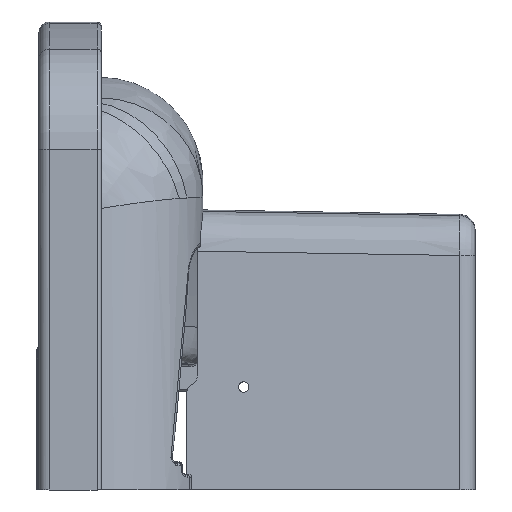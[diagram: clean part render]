
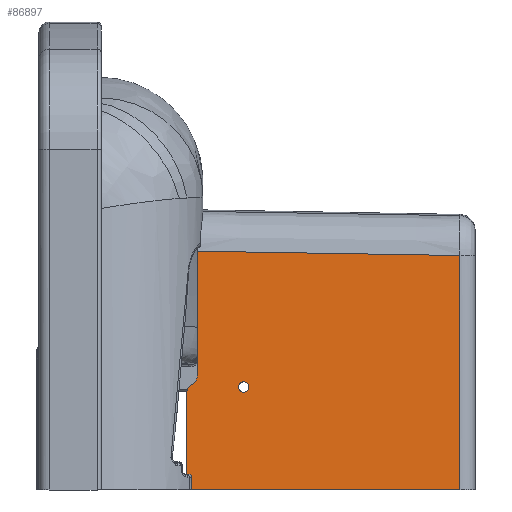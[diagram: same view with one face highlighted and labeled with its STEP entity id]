
A CAD part, left-side view. The second image highlights one B-rep face of the part: STEP entity #86897.
In plain terms, the highlighted planar face has unit normal (-0.999, -0.018, 0.038).
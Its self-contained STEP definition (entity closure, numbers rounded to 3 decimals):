
#903 = EDGE_LOOP ( 'NONE', ( #49031, #67076 ) ) ;
#9324 = EDGE_CURVE ( 'NONE', #20943, #35079, #80012, .T. ) ;
#9415 = CARTESIAN_POINT ( 'NONE',  ( -86.724, -187.349, -127.434 ) ) ;
#10497 = CARTESIAN_POINT ( 'NONE',  ( -77.939, -405.611, 4.344 ) ) ;
#10684 = EDGE_CURVE ( 'NONE', #88509, #39397, #85563, .T. ) ;
#10960 = CARTESIAN_POINT ( 'NONE',  ( -79.284, -325.793, 5.656 ) ) ;
#13706 = CARTESIAN_POINT ( 'NONE',  ( -86.869, -152.469, -115.121 ) ) ;
#14597 = ORIENTED_EDGE ( 'NONE', *, *, #78597, .T. ) ;
#15490 = EDGE_CURVE ( 'NONE', #25874, #45119, #69381, .T. ) ;
#15708 = CARTESIAN_POINT ( 'NONE',  ( -80.881, -152.469, 43.559 ) ) ;
#15893 = CARTESIAN_POINT ( 'NONE',  ( -87.271, -144.203, -121.95 ) ) ;
#16028 = CARTESIAN_POINT ( 'NONE',  ( -86.55, -197.349, -127.434 ) ) ;
#17090 = LINE ( 'NONE', #15708, #60788 ) ;
#17320 = DIRECTION ( 'NONE',  ( -0.999, -0.017, 0.038 ) ) ;
#17972 = CARTESIAN_POINT ( 'NONE',  ( -82.204, -152.469, 8.494 ) ) ;
#18402 = CARTESIAN_POINT ( 'NONE',  ( -87.563, -142.349, -128.824 ) ) ;
#19602 =( BOUNDED_CURVE ( )  B_SPLINE_CURVE ( 3, ( #38787, #15893, #73350, #30388 ),
 .UNSPECIFIED., .F., .F. ) 
 B_SPLINE_CURVE_WITH_KNOTS ( ( 4, 4 ),
 ( 4.092, 5.146 ),
 .UNSPECIFIED. ) 
 CURVE ( )  GEOMETRIC_REPRESENTATION_ITEM ( )  RATIONAL_B_SPLINE_CURVE ( ( 1., 0.91, 0.91, 1. ) ) 
 REPRESENTATION_ITEM ( '' )  );
#20943 = VERTEX_POINT ( 'NONE', #46291 ) ;
#21124 = VERTEX_POINT ( 'NONE', #69598 ) ;
#23426 = CARTESIAN_POINT ( 'NONE',  ( -86.172, -197.349, -117.434 ) ) ;
#24328 = PLANE ( 'NONE',  #62247 ) ;
#24982 = CARTESIAN_POINT ( 'NONE',  ( -79.956, -285.884, 6.31 ) ) ;
#25579 = EDGE_CURVE ( 'NONE', #21124, #39397, #17090, .T. ) ;
#25874 = VERTEX_POINT ( 'NONE', #74085 ) ;
#26198 = DIRECTION ( 'NONE',  ( -0.038, 0., -0.999 ) ) ;
#28200 = CARTESIAN_POINT ( 'NONE',  ( -87.022, -150.614, -118.308 ) ) ;
#30388 = CARTESIAN_POINT ( 'NONE',  ( -87.563, -142.349, -128.824 ) ) ;
#34068 = VECTOR ( 'NONE', #26198, 1000. ) ;
#35079 = VERTEX_POINT ( 'NONE', #39190 ) ;
#35525 = ORIENTED_EDGE ( 'NONE', *, *, #49822, .T. ) ;
#36118 = EDGE_CURVE ( 'NONE', #61023, #20943, #69189, .T. ) ;
#38787 = CARTESIAN_POINT ( 'NONE',  ( -87.146, -147.409, -120.129 ) ) ;
#38842 = ORIENTED_EDGE ( 'NONE', *, *, #25579, .F. ) ;
#39190 = CARTESIAN_POINT ( 'NONE',  ( -86.459, -405.611, -221.434 ) ) ;
#39397 = VERTEX_POINT ( 'NONE', #85009 ) ;
#41168 = CARTESIAN_POINT ( 'NONE',  ( -87.146, -147.409, -120.129 ) ) ;
#42703 = CARTESIAN_POINT ( 'NONE',  ( -86.73, -152.469, -111.434 ) ) ;
#44080 = CARTESIAN_POINT ( 'NONE',  ( -91.055, -142.524, -221.434 ) ) ;
#44564 = CARTESIAN_POINT ( 'NONE',  ( -85.998, -207.349, -117.434 ) ) ;
#45119 = VERTEX_POINT ( 'NONE', #58777 ) ;
#45565 = ORIENTED_EDGE ( 'NONE', *, *, #10684, .T. ) ;
#45625 = DIRECTION ( 'NONE',  ( 0.038, 0., 0.999 ) ) ;
#46291 = CARTESIAN_POINT ( 'NONE',  ( -91.058, -142.349, -221.434 ) ) ;
#46974 = CARTESIAN_POINT ( 'NONE',  ( -80.706, -241.412, 7.039 ) ) ;
#49031 = ORIENTED_EDGE ( 'NONE', *, *, #15490, .F. ) ;
#49822 = EDGE_CURVE ( 'NONE', #21124, #67767, #51812, .T. ) ;
#51026 = FACE_OUTER_BOUND ( 'NONE', #87010, .T. ) ;
#51812 =( BOUNDED_CURVE ( )  B_SPLINE_CURVE ( 3, ( #42703, #13706, #28200, #78179 ),
 .UNSPECIFIED., .F., .F. ) 
 B_SPLINE_CURVE_WITH_KNOTS ( ( 4, 4 ),
 ( 4.279, 5.333 ),
 .UNSPECIFIED. ) 
 CURVE ( )  GEOMETRIC_REPRESENTATION_ITEM ( )  RATIONAL_B_SPLINE_CURVE ( ( 1., 0.91, 0.91, 1. ) ) 
 REPRESENTATION_ITEM ( '' )  );
#51964 = CARTESIAN_POINT ( 'NONE',  ( -86.347, -187.349, -117.434 ) ) ;
#52508 = CARTESIAN_POINT ( 'NONE',  ( -77.948, -405.611, 4.111 ) ) ;
#52859 = CARTESIAN_POINT ( 'NONE',  ( -81.058, -142.349, 43.566 ) ) ;
#56202 = EDGE_CURVE ( 'NONE', #45119, #25874, #58899, .T. ) ;
#57655 = CARTESIAN_POINT ( 'NONE',  ( -86.375, -207.349, -127.434 ) ) ;
#58777 = CARTESIAN_POINT ( 'NONE',  ( -86.172, -197.349, -117.434 ) ) ;
#58899 =( BOUNDED_CURVE ( )  B_SPLINE_CURVE ( 3, ( #23426, #51964, #9415, #59420 ),
 .UNSPECIFIED., .F., .F. ) 
 B_SPLINE_CURVE_WITH_KNOTS ( ( 4, 4 ),
 ( 0.434, 3.575 ),
 .UNSPECIFIED. ) 
 CURVE ( )  GEOMETRIC_REPRESENTATION_ITEM ( )  RATIONAL_B_SPLINE_CURVE ( ( 1., 0.333, 0.333, 1. ) ) 
 REPRESENTATION_ITEM ( '' )  );
#59420 = CARTESIAN_POINT ( 'NONE',  ( -86.55, -197.349, -127.434 ) ) ;
#59535 = ORIENTED_EDGE ( 'NONE', *, *, #9324, .T. ) ;
#60788 = VECTOR ( 'NONE', #45625, 1000. ) ;
#61023 = VERTEX_POINT ( 'NONE', #18402 ) ;
#61718 = CARTESIAN_POINT ( 'NONE',  ( -81.058, -142.349, 43.566 ) ) ;
#62247 = AXIS2_PLACEMENT_3D ( 'NONE', #52859, #17320, #66858 ) ;
#65646 = EDGE_CURVE ( 'NONE', #35079, #88509, #66965, .T. ) ;
#66448 = VECTOR ( 'NONE', #85211, 1000. ) ;
#66858 = DIRECTION ( 'NONE',  ( 0.038, 0., 0.999 ) ) ;
#66965 = LINE ( 'NONE', #52508, #71951 ) ;
#67076 = ORIENTED_EDGE ( 'NONE', *, *, #56202, .F. ) ;
#67767 = VERTEX_POINT ( 'NONE', #41168 ) ;
#68348 = DIRECTION ( 'NONE',  ( 0.038, 0., 0.999 ) ) ;
#69189 = LINE ( 'NONE', #61718, #34068 ) ;
#69381 =( BOUNDED_CURVE ( )  B_SPLINE_CURVE ( 3, ( #16028, #57655, #44564, #73485 ),
 .UNSPECIFIED., .F., .F. ) 
 B_SPLINE_CURVE_WITH_KNOTS ( ( 4, 4 ),
 ( 3.575, 6.717 ),
 .UNSPECIFIED. ) 
 CURVE ( )  GEOMETRIC_REPRESENTATION_ITEM ( )  RATIONAL_B_SPLINE_CURVE ( ( 1., 0.333, 0.333, 1. ) ) 
 REPRESENTATION_ITEM ( '' )  );
#69598 = CARTESIAN_POINT ( 'NONE',  ( -86.73, -152.469, -111.434 ) ) ;
#70621 = CARTESIAN_POINT ( 'NONE',  ( -77.939, -405.611, 4.344 ) ) ;
#70713 = ORIENTED_EDGE ( 'NONE', *, *, #65646, .T. ) ;
#71951 = VECTOR ( 'NONE', #68348, 1000. ) ;
#73350 = CARTESIAN_POINT ( 'NONE',  ( -87.424, -142.349, -125.137 ) ) ;
#73397 = FACE_BOUND ( 'NONE', #903, .T. ) ;
#73485 = CARTESIAN_POINT ( 'NONE',  ( -86.172, -197.349, -117.434 ) ) ;
#74085 = CARTESIAN_POINT ( 'NONE',  ( -86.55, -197.349, -127.434 ) ) ;
#78179 = CARTESIAN_POINT ( 'NONE',  ( -87.146, -147.409, -120.129 ) ) ;
#78597 = EDGE_CURVE ( 'NONE', #67767, #61023, #19602, .T. ) ;
#80012 = LINE ( 'NONE', #44080, #66448 ) ;
#80294 = ORIENTED_EDGE ( 'NONE', *, *, #36118, .T. ) ;
#81525 = CARTESIAN_POINT ( 'NONE',  ( -78.612, -365.702, 5. ) ) ;
#81983 = CARTESIAN_POINT ( 'NONE',  ( -81.455, -196.941, 7.767 ) ) ;
#85009 = CARTESIAN_POINT ( 'NONE',  ( -82.204, -152.469, 8.494 ) ) ;
#85211 = DIRECTION ( 'NONE',  ( 0.017, -1., 0. ) ) ;
#85563 = B_SPLINE_CURVE_WITH_KNOTS ( 'NONE', 3,
 ( #10497, #81525, #10960, #24982, #46974, #81983, #17972 ),
 .UNSPECIFIED., .F., .F.,
 ( 4, 3, 4 ),
 ( 0.015, 0.135, 0.268 ),
 .UNSPECIFIED. ) ;
#86897 = ADVANCED_FACE ( 'NONE', ( #73397, #51026 ), #24328, .T. ) ;
#87010 = EDGE_LOOP ( 'NONE', ( #35525, #14597, #80294, #59535, #70713, #45565, #38842 ) ) ;
#88509 = VERTEX_POINT ( 'NONE', #70621 ) ;
